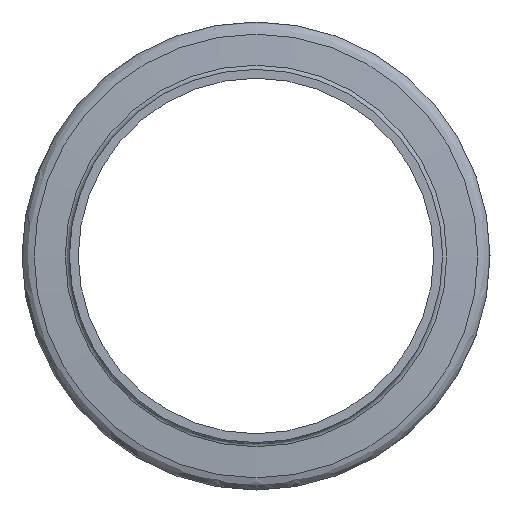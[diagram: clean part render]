
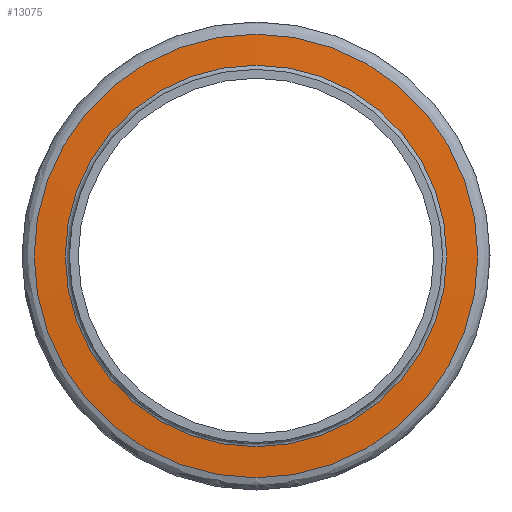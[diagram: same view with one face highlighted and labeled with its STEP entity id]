
A CAD part, left-side view. The second image highlights one B-rep face of the part: STEP entity #13075.
In plain terms, the highlighted conical face has half-angle 86.186 degrees and reference radius 7.49 mm.
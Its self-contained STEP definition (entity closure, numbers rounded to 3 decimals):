
#347 = EDGE_LOOP ( 'NONE', ( #11723 ) ) ;
#1143 = EDGE_CURVE ( 'NONE', #6325, #6325, #4761, .T. ) ;
#1380 = AXIS2_PLACEMENT_3D ( 'NONE', #3584, #12958, #2575 ) ;
#1577 = EDGE_CURVE ( 'NONE', #5664, #5664, #6044, .T. ) ;
#2093 = AXIS2_PLACEMENT_3D ( 'NONE', #9104, #2791, #10165 ) ;
#2575 = DIRECTION ( 'NONE',  ( 0., 1., 0. ) ) ;
#2791 = DIRECTION ( 'NONE',  ( 1., 0., 0. ) ) ;
#3316 = ORIENTED_EDGE ( 'NONE', *, *, #1577, .T. ) ;
#3584 = CARTESIAN_POINT ( 'NONE',  ( 0.41, 0., 0. ) ) ;
#3761 = CONICAL_SURFACE ( 'NONE', #1380, 7.49, 1.504 ) ;
#3798 = DIRECTION ( 'NONE',  ( 1., 0., 0. ) ) ;
#4761 = CIRCLE ( 'NONE', #2093, 7.49 ) ;
#5074 = FACE_OUTER_BOUND ( 'NONE', #347, .T. ) ;
#5664 = VERTEX_POINT ( 'NONE', #13542 ) ;
#6044 = CIRCLE ( 'NONE', #11207, 6.44 ) ;
#6325 = VERTEX_POINT ( 'NONE', #8146 ) ;
#8146 = CARTESIAN_POINT ( 'NONE',  ( 0.41, 0., -7.49 ) ) ;
#8541 = EDGE_LOOP ( 'NONE', ( #3316 ) ) ;
#9104 = CARTESIAN_POINT ( 'NONE',  ( 0.41, 0., 0. ) ) ;
#10099 = CARTESIAN_POINT ( 'NONE',  ( 0.34, 0., 0. ) ) ;
#10165 = DIRECTION ( 'NONE',  ( 0., 0., -1. ) ) ;
#10696 = FACE_BOUND ( 'NONE', #8541, .T. ) ;
#11182 = DIRECTION ( 'NONE',  ( 0., 0., -1. ) ) ;
#11207 = AXIS2_PLACEMENT_3D ( 'NONE', #10099, #3798, #11182 ) ;
#11723 = ORIENTED_EDGE ( 'NONE', *, *, #1143, .F. ) ;
#12958 = DIRECTION ( 'NONE',  ( 1., 0., 0. ) ) ;
#13075 = ADVANCED_FACE ( 'NONE', ( #5074, #10696 ), #3761, .T. ) ;
#13542 = CARTESIAN_POINT ( 'NONE',  ( 0.34, 0., -6.44 ) ) ;
